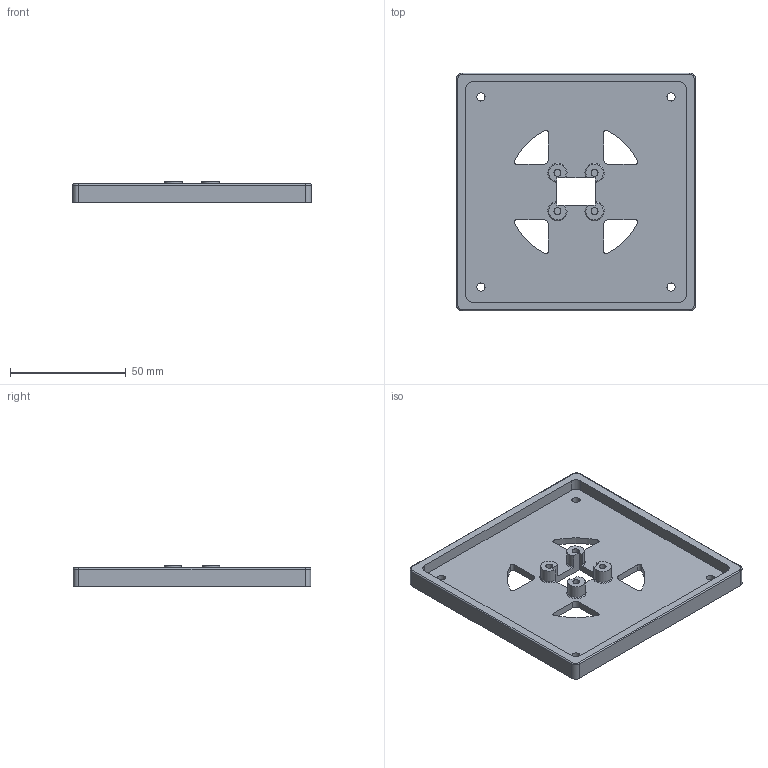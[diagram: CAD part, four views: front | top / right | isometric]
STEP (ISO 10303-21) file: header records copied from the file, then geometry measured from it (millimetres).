
FILE_DESCRIPTION(/* description */ (''),/* implementation_level */ '2;1');
FILE_NAME(/* name */ 'Center hindge_Part 02.stp',/* time_stamp */ '2025-08-27T00:58:42+09:00',/* author */ (''),/* organization */ (''),/* preprocessor_version */ 'ST-DEVELOPER v11',/* originating_system */ 'SIEMENS PLM Software NX 7.5',/* authorisation */ '');
FILE_SCHEMA (('CONFIG_CONTROL_DESIGN'));
Length unit declared in the file: millimetre
Products named in the file (1): gyun8D5Clm00
Bounding box: 103 x 102.5 x 9 mm (x, y, z)
Volume: 37652.6 mm3; surface area: 26172.5 mm2
Topology: 1 solids, 1 shells, 79 faces, 209 edges, 137 vertices
Faces by surface type: cylinder 40, plane 31, cone 4, torus 4
Full cylindrical faces by diameter (mm): 3 x4, 3.5 x4
Entity records: 2560 total; most frequent: DIRECTION 442, CARTESIAN_POINT 441, ORIENTED_EDGE 400, EDGE_CURVE 200, AXIS2_PLACEMENT_3D 169, VERTEX_POINT 136, EDGE_LOOP 110, LINE 104
